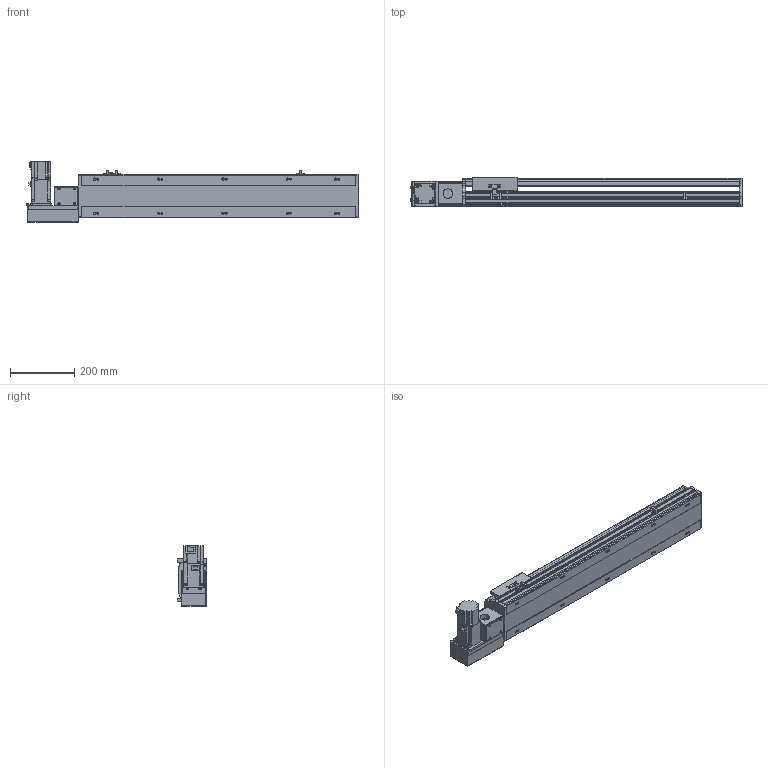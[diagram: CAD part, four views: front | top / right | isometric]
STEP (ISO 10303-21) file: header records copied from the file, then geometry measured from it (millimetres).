
FILE_DESCRIPTION(/* description */ ('STEP AP214'),/* implementation_level */ '2;1');
FILE_NAME(/* name */ 'PBS140S-P40-S600-L-T40-C1-N(0)',/* time_stamp */ '2022-06-09T02:00:51+02:00',/* author */ ('License CC BY-ND 4.0'),/* organization */ ('CADENAS'),/* preprocessor_version */ 'ST-DEVELOPER v18.102',/* originating_system */ 'PARTsolutions',/* authorisation */ ' ');
FILE_SCHEMA (('AUTOMOTIVE_DESIGN {1 0 10303 214 3 1 1}'));
Length unit declared in the file: millimetre
Products named in the file (7): PBS140S-P40-S600-L-T40-C1-N(0); PBS140S_sensor; PBS140S_plant; PBS140S_sliser; T40-p1; PBS140ST-L_motors; PBS140S-S600()_body
Assembly tree (8 placements, depth 2):
  PBS140S-P40-S600-L-T40-C1-N(0)
    PBS140S_sensor  x3
    PBS140S_plant
    PBS140S_sliser
    T40-p1
    PBS140ST-L_motors
    PBS140S-S600()_body
Bounding box: 1033 x 93 x 189.7 mm (x, y, z)
Volume: 5218457.3 mm3; surface area: 920833.5 mm2
Topology: 8 solids, 8 shells, 1051 faces, 2791 edges, 1827 vertices
Faces by surface type: plane 684, cylinder 321, cone 36, sphere 8, torus 2
Full cylindrical faces by diameter (mm): 3.242 x4, 4 x2, 4.134 x4, 4.4 x8, 4.5 x2, 4.8 x4, 4.917 x18, 5.5 x7, 6 x2, 7 x12, 7.5 x8, 8 x12, 8.5 x4, 10.5 x10, 14 x1, 30 x2, 50 x2
Entity records: 30122 total; most frequent: CARTESIAN_POINT 5480, DIRECTION 5138, ORIENTED_EDGE 4882, EDGE_CURVE 2441, AXIS2_PLACEMENT_3D 1769, VERTEX_POINT 1681, LINE 1600, VECTOR 1600
